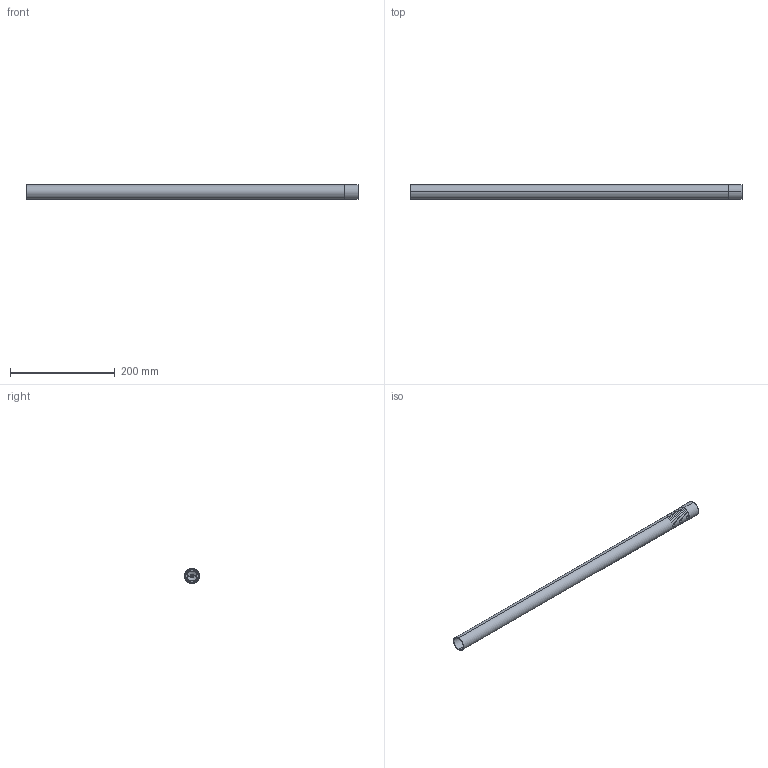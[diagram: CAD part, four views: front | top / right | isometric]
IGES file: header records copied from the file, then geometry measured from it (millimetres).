
Start section: SolidWorks IGES file using analytic representation for surfaces
Global section: file name: \\SERVER3\Design\_New Design Drive Folder List\_Design Vault\AAI\Modular Round Tube Connectors\Solidworks Models\Demonstrations\25. Assemblies\Modular Connectors\1. End Connectors\End Connectors Solid Models\Threaded End Connector.IGS; native system: SolidWorks 2013; preprocessor: SolidWorks 2013; author: tbraun; date: 130819.103507; units: inch
Bounding box: 635 x 28.57 x 28.57 mm (x, y, z)
Surface area: 113831.8 mm2 (no closed solid volume)
Topology: 0 solids, 0 shells, 234 faces, 2920 edges, 2920 vertices
Faces by surface type: bspline 124, revolution 110
